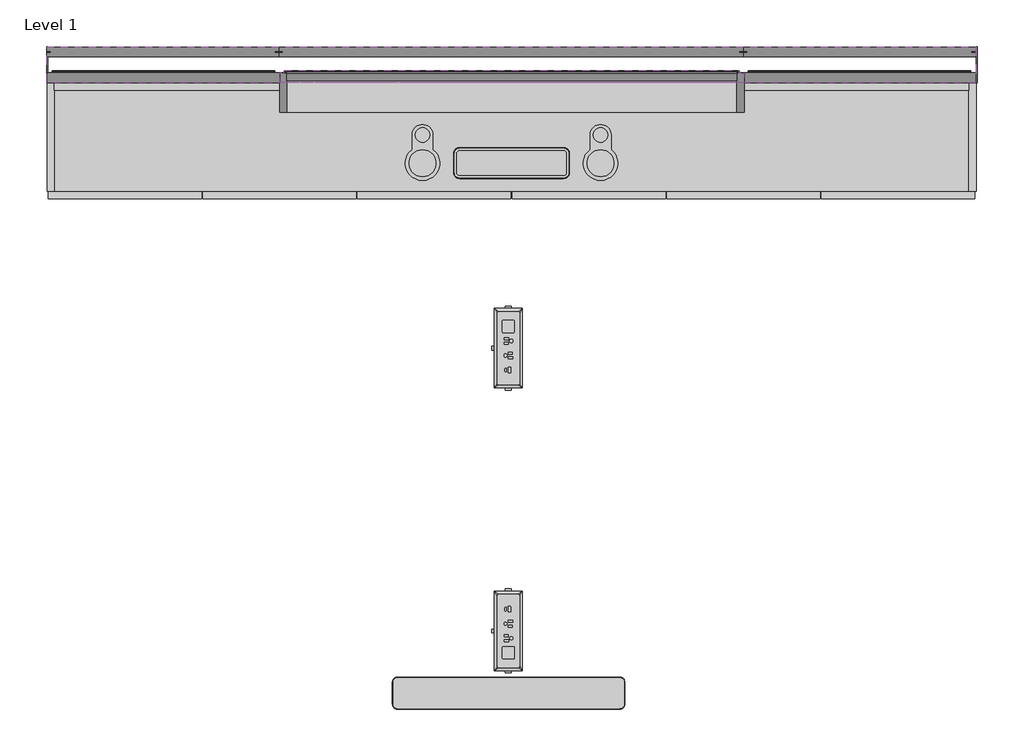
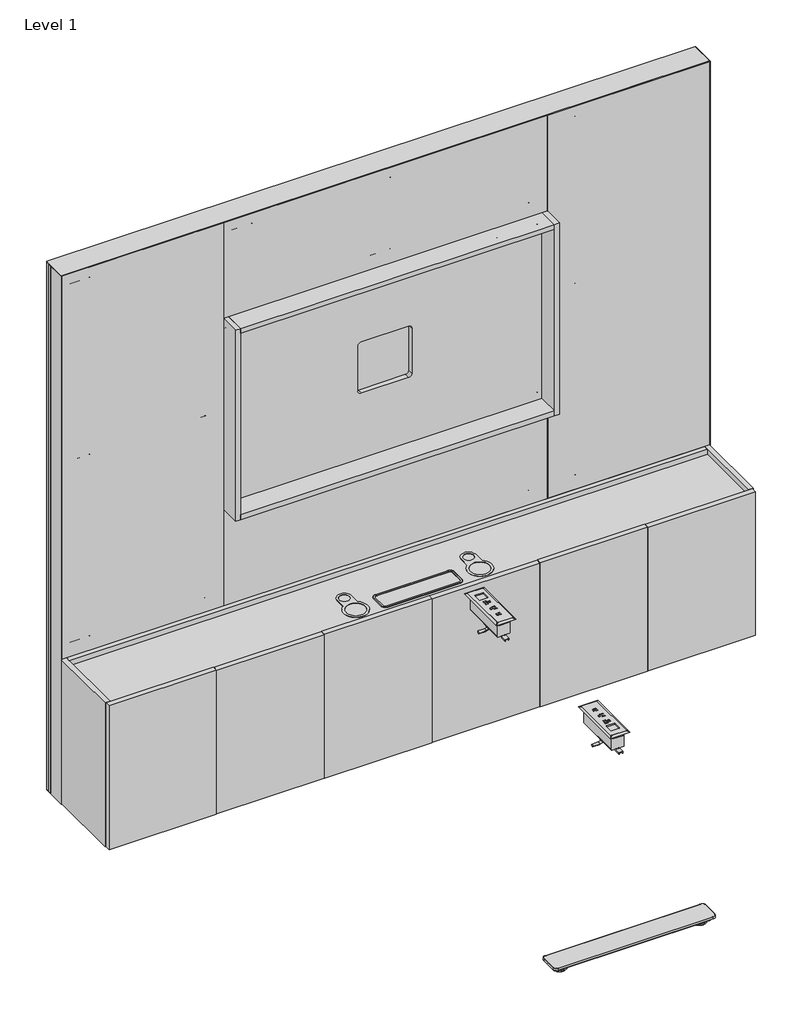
# One storey, incomplete: 15 furniture elements.
"""IFC4 building model written with IfcOpenShell, lengths in millimetres."""

from ifc_helpers import new_model, si_unit, origin, place, context, project, spatial, transform, mapped, element, save
from components import furniture_4b8cdf0e, furniture_9f6ea187, furniture_09248376, furniture_4de1cb5a, furniture_a65631a2, furniture_07ebbf5c, furniture_aca357fb, furniture_cf8474a0, furniture_a66f4f8e, furniture_0a34b4cb, in_surface_6b24b240, in_surface_33791ff7, t_foot_2f0a3af6

model = new_model("IFC4")

# Units and contexts
model_context = context("Model", 3, world=origin())
ifc_project = project(units=[si_unit("LENGTHUNIT", "METRE", prefix="MILLI")], contexts=[model_context])

# Site, building, storey
site = spatial("IfcSite", under=ifc_project)
building = spatial("IfcBuilding", under=site)
storey = spatial("IfcBuildingStorey", under=building, Name="Level 1", Elevation=0.0)

# Furniture
placement = place(None, origin())
furniture_shape = furniture_4b8cdf0e(model_context)
element("IfcFurniture", 1, ObjectType="Geiger_GeigerOneCasegoods_WallTileTopTileorWallMounted : Vertical Veneer 48Wx 1.25Dx 15H", at=placement, inside=storey, context=model_context, shape_type="MappedRepresentation", body=[
    mapped(furniture_shape, transform((1388.7618099, 4439.5707856, 1728.1906), x_axis=(1.0, 0.0, 0.0), y_axis=(0.0, 1.0, 0.0), z_axis=(0.0, 0.0, 1.0))),
])
furniture_2_shape = furniture_9f6ea187(model_context)
element("IfcFurniture", 2, ObjectType="Geiger_GeigerOneCasegoods_WallTileTopTileorWallMountedFabric : Fabric 24Wx 1.25Dx 60H 2 yds", at=placement, inside=storey, context=model_context, shape_type="MappedRepresentation", body=[
    mapped(furniture_2_shape, transform((779.1618099, 4439.5707856, 585.1906), x_axis=(1.0, 0.0, 0.0), y_axis=(0.0, 1.0, 0.0), z_axis=(0.0, 0.0, 1.0))),
])
furniture_3_shape = furniture_09248376(model_context)
element("IfcFurniture", 3, ObjectType="Geiger_GeigerOneCasegoods_WallTileAcceptsTileAbove : Vertical Veneer 48Wx 1.25Dx 15H", at=placement, inside=storey, context=model_context, shape_type="MappedRepresentation", body=[
    mapped(furniture_3_shape, transform((1388.7618099, 4439.5707856, 585.1906), x_axis=(1.0, 0.0, 0.0), y_axis=(0.0, 1.0, 0.0), z_axis=(0.0, 0.0, 1.0))),
])
furniture_4_shape = furniture_4de1cb5a(model_context)
element("IfcFurniture", 4, ObjectType="Geiger_GeigerOneCasegoods_WallTileTopTileorWallMountedWhiteM : 24Wx 1.25Dx 60H", at=placement, inside=storey, context=model_context, shape_type="MappedRepresentation", body=[
    mapped(furniture_4_shape, transform((2606.5618099, 4439.5707856, 585.1906), x_axis=(1.0, 0.0, 0.0), y_axis=(0.0, 1.0, 0.0), z_axis=(0.0, 0.0, 1.0))),
])
furniture_5_shape = furniture_a65631a2(model_context)
element("IfcFurniture", 5, ObjectType="Geiger_GeigerOneCasegoods_UtilityCabinetForUseinHuddleApplication : Vertical Veneer 96Wx 12Dx 22.5H", at=placement, inside=storey, context=model_context, shape_type="MappedRepresentation", body=[
    mapped(furniture_5_shape, transform((778.4618099, 4414.0707856, 0.0), x_axis=(1.0, 0.0, 0.0), y_axis=(0.0, 1.0, 0.0), z_axis=(0.0, 0.0, 1.0))),
])
furniture_6_shape = furniture_07ebbf5c(model_context)
element("IfcFurniture", 6, ObjectType="Geiger_GeigerOneCasegoods_WallTopTrimDoubleSidedWall : 96Wx3.75Dx0.125H", at=placement, inside=storey, context=model_context, shape_type="MappedRepresentation", body=[
    mapped(furniture_6_shape, transform((777.1618099, 4460.5607856, 2108.2), x_axis=(1.0, 0.0, 0.0), y_axis=(0.0, 1.0, 0.0), z_axis=(0.0, 0.0, 1.0))),
])
furniture_7_shape = furniture_aca357fb(model_context)
element("IfcFurniture", 7, ObjectType="Geiger_GeigerOneCasegoods_WallTVBoxAcceptsShelfandTile : Horizontal Veneer Back 48Wx4.25Dx29.875H", at=placement, inside=storey, context=model_context, shape_type="MappedRepresentation", body=[
    mapped(furniture_7_shape, transform((1388.7618099, 4444.5149299, 966.6906), x_axis=(1.0, 0.0, 0.0), y_axis=(0.0, 1.0, 0.0), z_axis=(0.0, 0.0, 1.0))),
])
furniture_8_shape = furniture_cf8474a0(model_context)
element("IfcFurniture", 8, ObjectType="Geiger_GeigerOneCasegoods_WallEndTrim : DoubleSided 3.75Wx 0.125Dx 82.625H", at=placement, inside=storey, context=model_context, shape_type="MappedRepresentation", body=[
    mapped(furniture_8_shape, transform((777.1618099, 4461.1957856, 9.525), x_axis=(1.0, 0.0, 0.0), y_axis=(0.0, 1.0, 0.0), z_axis=(0.0, 0.0, 1.0))),
])
element("IfcFurniture", 9, ObjectType="Geiger_GeigerOneCasegoods_WallEndTrim : DoubleSided 3.75Wx 0.125Dx 82.625H", at=placement, inside=storey, context=model_context, shape_type="MappedRepresentation", body=[
    mapped(furniture_8_shape, transform((3217.4668099, 4461.1957856, 9.525), x_axis=(1.0, 0.0, 0.0), y_axis=(0.0, 1.0, 0.0), z_axis=(0.0, 0.0, 1.0))),
])
furniture_9_shape = furniture_a66f4f8e(model_context)
element("IfcFurniture", 10, ObjectType="Geiger_GeigerOneCasegoods_WallFrameHuddleRoomApplication : 24Wx1Dx82.5H", at=placement, inside=storey, context=model_context, shape_type="MappedRepresentation", body=[
    mapped(furniture_9_shape, transform((2605.9618099, 4507.5507856, 0.0), x_axis=(1.0, 0.0, 0.0), y_axis=(0.0, 1.0, 0.0), z_axis=(0.0, 0.0, 1.0))),
])
element("IfcFurniture", 11, ObjectType="Geiger_GeigerOneCasegoods_WallFrameHuddleRoomApplication : 24Wx1Dx82.5H", at=placement, inside=storey, context=model_context, shape_type="MappedRepresentation", body=[
    mapped(furniture_9_shape, transform((777.1618099, 4507.5507856, 0.0), x_axis=(1.0, 0.0, 0.0), y_axis=(0.0, 1.0, 0.0), z_axis=(0.0, 0.0, 1.0))),
])
furniture_10_shape = furniture_0a34b4cb(model_context)
element("IfcFurniture", 12, ObjectType="Geiger_GeigerOneCasegoods_WallFrameHuddleRoomApplication : 48Wx1Dx82.5H", at=placement, inside=storey, context=model_context, shape_type="MappedRepresentation", body=[
    mapped(furniture_10_shape, transform((1386.7618099, 4507.5507856, 0.0), x_axis=(1.0, 0.0, 0.0), y_axis=(0.0, 1.0, 0.0), z_axis=(0.0, 0.0, 1.0))),
])
in_surface_shape = in_surface_6b24b240(model_context)
element("IfcFurniture", 13, ObjectType="Geiger_GeigerOneCasegoods_PowerComponent2PowerOutlets1USBA1USBC : In Surface", at=placement, inside=storey, context=model_context, shape_type="MappedRepresentation", body=[
    mapped(in_surface_shape, transform((1989.4261078, 3717.0303427, 794.4104), x_axis=(0.0, -1.0, 0.0), y_axis=(1.0, 0.0, 0.0), z_axis=(0.0, 0.0, 1.0))),
])
in_surface_2_shape = in_surface_33791ff7(model_context)
element("IfcFurniture", 14, ObjectType="Geiger_GeigerOneCasegoods_PowerComponent2PowerOutlets1USBA1USBC : In Surface", at=placement, inside=storey, context=model_context, shape_type="MappedRepresentation", body=[
    mapped(in_surface_2_shape, transform((1989.4261078, 2974.8612285, 794.4104), x_axis=(0.0, 1.0, 0.0), y_axis=(-1.0, 0.0, 0.0), z_axis=(0.0, 0.0, 1.0))),
])
t_foot_shape = t_foot_2f0a3af6(model_context)
element("IfcFurniture", 15, ObjectType="Geiger_GeigerOneCasegoods_LegSupport : T Foot", at=placement, inside=storey, context=model_context, shape_type="MappedRepresentation", body=[
    mapped(t_foot_shape, transform((1990.0320617, 2811.8125181, 0.0), x_axis=(1.0, 0.0, 0.0), y_axis=(0.0, 1.0, 0.0), z_axis=(0.0, 0.0, 1.0))),
])

save(model, "model.ifc")
